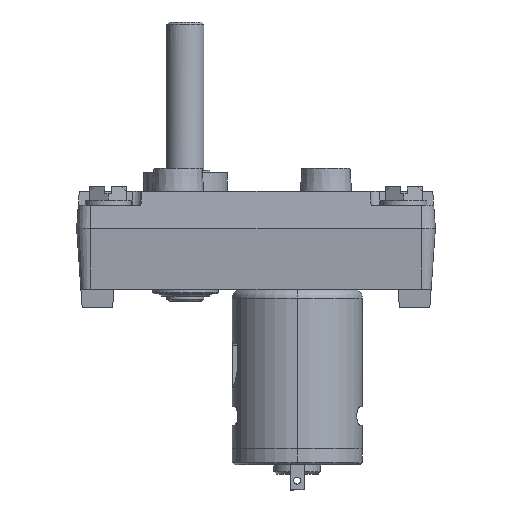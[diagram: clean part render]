
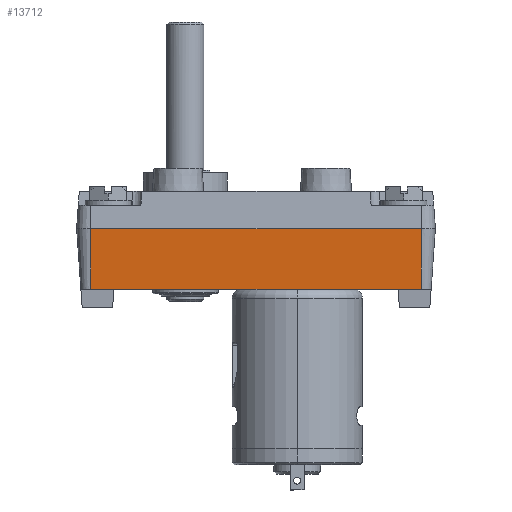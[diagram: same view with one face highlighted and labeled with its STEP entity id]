
A CAD part, left-side view. The second image highlights one B-rep face of the part: STEP entity #13712.
In plain terms, the highlighted planar face has unit normal (-0.998, 0, -0.07).
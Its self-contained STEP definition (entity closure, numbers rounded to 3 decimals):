
#569 = VERTEX_POINT ( 'NONE', #16309 ) ;
#1709 = EDGE_CURVE ( 'NONE', #9860, #13267, #8882, .T. ) ;
#1897 = LINE ( 'NONE', #9588, #8176 ) ;
#2049 = FACE_OUTER_BOUND ( 'NONE', #12903, .T. ) ;
#2578 = CARTESIAN_POINT ( 'NONE',  ( 0.909, 74., -13. ) ) ;
#2689 = VECTOR ( 'NONE', #11008, 1000. ) ;
#3409 = CARTESIAN_POINT ( 'NONE',  ( 0.909, 3., -13. ) ) ;
#3691 = VECTOR ( 'NONE', #9924, 1000. ) ;
#4478 = VERTEX_POINT ( 'NONE', #14079 ) ;
#4721 = CARTESIAN_POINT ( 'NONE',  ( 0., 3., 0. ) ) ;
#6265 = DIRECTION ( 'NONE',  ( -0.998, 0., -0.07 ) ) ;
#6844 = VECTOR ( 'NONE', #8179, 1000. ) ;
#6867 = CARTESIAN_POINT ( 'NONE',  ( 0., 3., 0. ) ) ;
#7138 = ORIENTED_EDGE ( 'NONE', *, *, #1709, .T. ) ;
#7558 = ORIENTED_EDGE ( 'NONE', *, *, #8226, .F. ) ;
#8176 = VECTOR ( 'NONE', #16091, 1000. ) ;
#8179 = DIRECTION ( 'NONE',  ( -0.07, 0., 0.998 ) ) ;
#8226 = EDGE_CURVE ( 'NONE', #4478, #569, #1897, .T. ) ;
#8622 = EDGE_CURVE ( 'NONE', #4478, #9860, #15436, .T. ) ;
#8818 = CARTESIAN_POINT ( 'NONE',  ( 0., 3., 0. ) ) ;
#8838 = EDGE_CURVE ( 'NONE', #569, #13267, #8962, .T. ) ;
#8882 = LINE ( 'NONE', #6867, #6844 ) ;
#8937 = DIRECTION ( 'NONE',  ( 0.07, 0., -0.998 ) ) ;
#8962 = LINE ( 'NONE', #4721, #3691 ) ;
#9588 = CARTESIAN_POINT ( 'NONE',  ( 0., 74., 0. ) ) ;
#9860 = VERTEX_POINT ( 'NONE', #3409 ) ;
#9924 = DIRECTION ( 'NONE',  ( 0., -1., 0. ) ) ;
#11008 = DIRECTION ( 'NONE',  ( 0., -1., 0. ) ) ;
#11187 = AXIS2_PLACEMENT_3D ( 'NONE', #8818, #6265, #8937 ) ;
#11966 = ORIENTED_EDGE ( 'NONE', *, *, #8838, .F. ) ;
#12903 = EDGE_LOOP ( 'NONE', ( #11966, #7558, #15153, #7138 ) ) ;
#13267 = VERTEX_POINT ( 'NONE', #14214 ) ;
#13712 = ADVANCED_FACE ( 'NONE', ( #2049 ), #16560, .T. ) ;
#14079 = CARTESIAN_POINT ( 'NONE',  ( 0.909, 74., -13. ) ) ;
#14214 = CARTESIAN_POINT ( 'NONE',  ( 0., 3., 0. ) ) ;
#15153 = ORIENTED_EDGE ( 'NONE', *, *, #8622, .T. ) ;
#15436 = LINE ( 'NONE', #2578, #2689 ) ;
#16091 = DIRECTION ( 'NONE',  ( -0.07, 0., 0.998 ) ) ;
#16309 = CARTESIAN_POINT ( 'NONE',  ( 0., 74., 0. ) ) ;
#16560 = PLANE ( 'NONE',  #11187 ) ;
